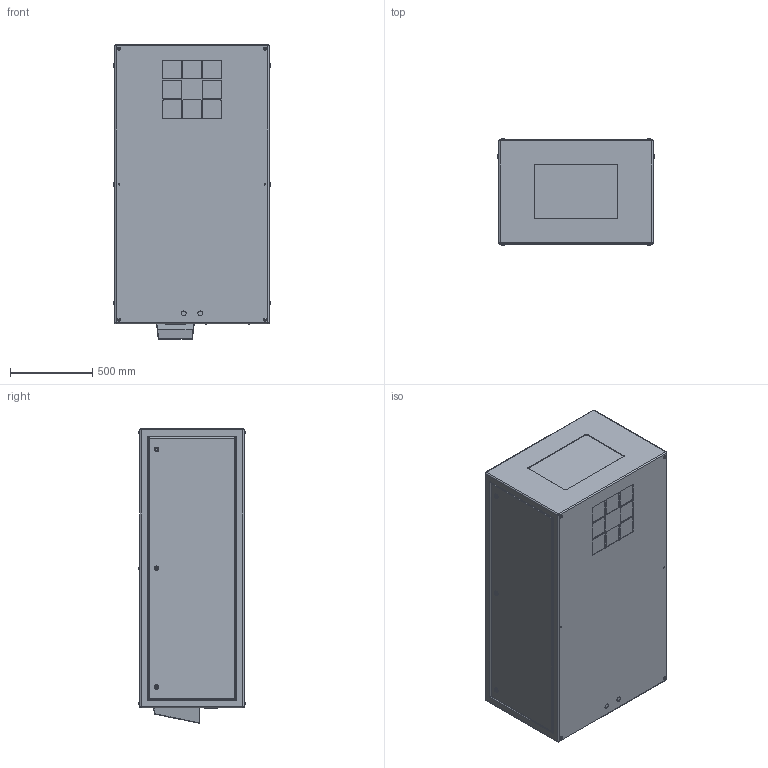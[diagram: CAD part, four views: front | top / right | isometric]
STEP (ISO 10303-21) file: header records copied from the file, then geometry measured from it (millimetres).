
FILE_DESCRIPTION (( 'STEP AP214' ), '1' );
FILE_NAME ('Cyclone 55.320.L.xx R08.STEP', '2020-05-08T01:10:35', ( '' ), ( '' ), 'SwSTEP 2.0', 'SolidWorks 2018', '' );
FILE_SCHEMA (( 'AUTOMOTIVE_DESIGN' ));
Length unit declared in the file: inch
Products named in the file (1): Cyclone 55.320.L.xx R08
Bounding box: 952.5 x 649.73 x 1797.05 mm (x, y, z)
Volume: 1013624647.4 mm3; surface area: 7177049.3 mm2
Topology: 1 solids, 1 shells, 479 faces, 1118 edges, 712 vertices
Faces by surface type: plane 257, cylinder 170, torus 44, sphere 8
Entity records: 17242 total; most frequent: DIRECTION 2450, CARTESIAN_POINT 2350, ORIENTED_EDGE 2220, EDGE_CURVE 1110, AXIS2_PLACEMENT_3D 876, VERTEX_POINT 712, LINE 698, VECTOR 698
